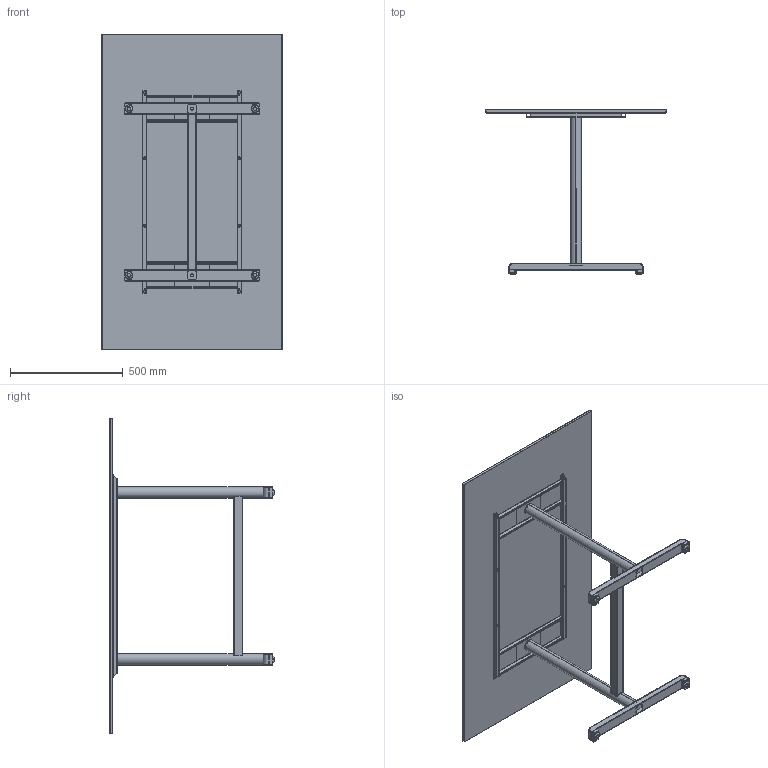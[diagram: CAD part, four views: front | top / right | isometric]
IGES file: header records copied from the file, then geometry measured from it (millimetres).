
Start section: SolidWorks IGES file using analytic representation for surfaces
Global section: file name: C:\Users\ibrahim\Desktop\SW çizimler\3D Enjeksiyon Ürünler\masalar\plus II.IGS; native system: SolidWorks 2015; preprocessor: SolidWorks 2015; author: ibrahim; date: 150722.111639; units: millimetre
Bounding box: 800 x 728 x 1400 mm (x, y, z)
Surface area: 3773585.2 mm2 (no closed solid volume)
Topology: 0 solids, 0 shells, 506 faces, 6992 edges, 6984 vertices
Faces by surface type: bspline 276, revolution 230
